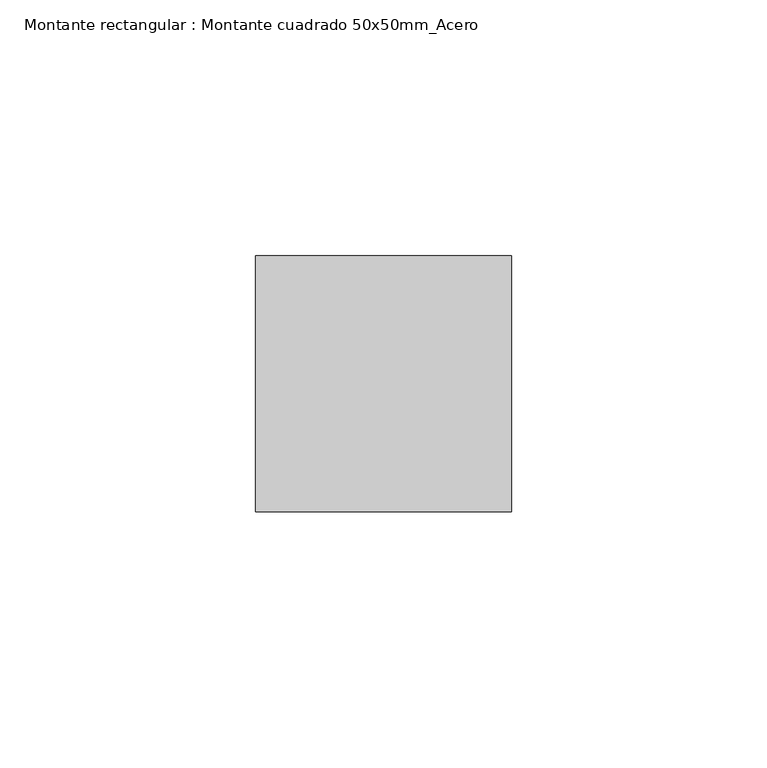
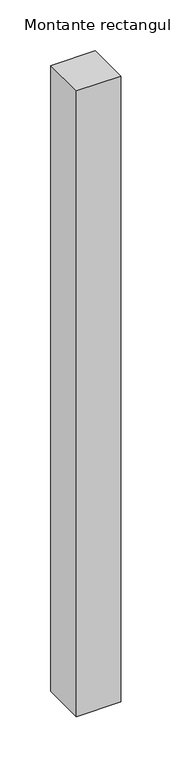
"""IFC4 building model written with IfcOpenShell, lengths in millimetres: member geometry, Montante rectangular : Montante cuadrado 50x50mm_Acero."""

import ifcopenshell
import ifcopenshell.guid

model = None  # the IFC model being written
_history = None  # IfcOwnerHistory: only IFC2X3 demands one
_inside = {}  # id of a spatial element -> (the spatial element, [elements in it])
_under = {}  # id of a project, library or spatial element -> (it, [spatial elements below it])
_declared = {}  # id of a project -> (the project, [libraries it declares])
_typed = {}  # id of a type object -> (the type object, [elements of that type])
_made_of = {}  # id of a material, layer set ... -> (it, [elements and type objects made of it])


def new_model(schema):
    """Start an empty IFC model of exactly this schema.

    Asked for "IFC4X3", IfcOpenShell would pick the latest addendum, in which some entities
    have other attributes; the version numbers below select the first issue.
    IFC2X3 requires an IfcOwnerHistory on every rooted entity: one is made here for all.
    """
    global model, _history
    if schema == "IFC4X3":
        model = ifcopenshell.file(schema_version=(4, 3, 0, 0))
    else:
        model = ifcopenshell.file(schema=schema)
    _inside.clear()
    _under.clear()
    _declared.clear()
    _typed.clear()
    _made_of.clear()
    _history = None
    if model.schema == "IFC2X3":
        org = make("IfcOrganization", Name="unknown")
        user = make(
            "IfcPersonAndOrganization",
            ThePerson=make("IfcPerson", FamilyName="unknown"),
            TheOrganization=org,
        )
        app = make(
            "IfcApplication",
            ApplicationDeveloper=org,
            Version="unknown",
            ApplicationFullName="unknown",
            ApplicationIdentifier="unknown",
        )
        _history = make(
            "IfcOwnerHistory",
            OwningUser=user,
            OwningApplication=app,
            ChangeAction="ADDED",
            CreationDate=0,
        )
    return model


def make(cls, **values):
    """One entity of the class cls with the attributes given. An attribute that is None is left unset."""
    return model.create_entity(
        cls, **{name: value for name, value in values.items() if value is not None}
    )


def rooted(cls, **values):
    """An entity with a GlobalId (a new one), such as an element, a storey or a relation."""
    return make(cls, GlobalId=ifcopenshell.guid.new(), OwnerHistory=_history, **values)


def si_unit(unit_type, name, prefix=None):
    """IfcSIUnit, for example si_unit("LENGTHUNIT", "METRE", prefix="MILLI")."""
    return make("IfcSIUnit", UnitType=unit_type, Prefix=prefix, Name=name)


def assignment(units):
    """IfcUnitAssignment: the units of a project."""
    return None if units is None else make("IfcUnitAssignment", Units=units)


def point(xyz):
    """IfcCartesianPoint."""
    return None if xyz is None else make("IfcCartesianPoint", Coordinates=xyz)


def direction(xyz):
    """IfcDirection."""
    return None if xyz is None else make("IfcDirection", DirectionRatios=xyz)


def frame(location, z_axis=None, x_axis=None):
    """IfcAxis2Placement3D, a coordinate frame: its origin and axes. An axis left out is left unset."""
    return make(
        "IfcAxis2Placement3D",
        Location=point(location),
        Axis=direction(z_axis),
        RefDirection=direction(x_axis),
    )


def origin():
    """The frame at (0, 0, 0) with its axes left unset."""
    return frame((0.0, 0.0, 0.0))


def place(relative_to, where):
    """IfcLocalPlacement: puts the frame where relative to a parent placement (None: the world)."""
    return make(
        "IfcLocalPlacement", PlacementRelTo=relative_to, RelativePlacement=where
    )


def context(
    kind, dimensions, precision=None, world=None, true_north=None, identifier=None
):
    """IfcGeometricRepresentationContext, for example the 3D "Model" context."""
    return make(
        "IfcGeometricRepresentationContext",
        ContextIdentifier=identifier,
        ContextType=kind,
        CoordinateSpaceDimension=dimensions,
        Precision=precision,
        WorldCoordinateSystem=world,
        TrueNorth=true_north,
    )


def project(units=None, contexts=None):
    """IfcProject with its units and contexts."""
    return rooted(
        "IfcProject",
        Name="project",
        RepresentationContexts=contexts,
        UnitsInContext=assignment(units),
    )


def spatial(cls, under=None, at=None, **own):
    """A site, building, storey or space (cls), placed at a placement, below another one or the project."""
    s = rooted(cls, ObjectPlacement=at, **own)
    if under is not None:
        _under.setdefault(under.id(), (under, []))[1].append(s)
    return s


def polyline(points):
    """IfcPolyline through the points."""
    return make("IfcPolyline", Points=[point(p) for p in points])


def outline(outer, holes=None, kind="AREA"):
    """IfcArbitraryClosedProfileDef: a profile drawn as a closed curve; with holes, ...WithVoids."""
    if holes is None:
        return make("IfcArbitraryClosedProfileDef", ProfileType=kind, OuterCurve=outer)
    return make(
        "IfcArbitraryProfileDefWithVoids",
        ProfileType=kind,
        OuterCurve=outer,
        InnerCurves=holes,
    )


def extrude(swept, where, along, depth):
    """IfcExtrudedAreaSolid: the profile swept, set in the frame where, extruded along a direction by depth."""
    return make(
        "IfcExtrudedAreaSolid",
        SweptArea=swept,
        Position=where,
        ExtrudedDirection=direction(along),
        Depth=depth,
    )


def shape(context_of_items, identifier, shape_type, items):
    """IfcShapeRepresentation: the items that make up one representation, for example the "Body"."""
    return make(
        "IfcShapeRepresentation",
        ContextOfItems=context_of_items,
        RepresentationIdentifier=identifier,
        RepresentationType=shape_type,
        Items=items,
    )


def source(mapping_origin, context_of_items, identifier, shape_type, items):
    """IfcRepresentationMap: a shape defined once, which mapped items show again and again."""
    return make(
        "IfcRepresentationMap",
        MappingOrigin=mapping_origin,
        MappedRepresentation=shape(context_of_items, identifier, shape_type, items),
    )


def transform(
    local_origin,
    x_axis=None,
    y_axis=None,
    z_axis=None,
    scale=None,
    scale2=None,
    scale3=None,
    uniform=True,
):
    """IfcCartesianTransformationOperator3D, or its non-uniform kind. x_axis, y_axis, z_axis: its Axis1, 2, 3."""
    if uniform:
        return make(
            "IfcCartesianTransformationOperator3D",
            Axis1=direction(x_axis),
            Axis2=direction(y_axis),
            LocalOrigin=point(local_origin),
            Scale=scale,
            Axis3=direction(z_axis),
        )
    return make(
        "IfcCartesianTransformationOperator3DnonUniform",
        Axis1=direction(x_axis),
        Axis2=direction(y_axis),
        LocalOrigin=point(local_origin),
        Scale=scale,
        Axis3=direction(z_axis),
        Scale2=scale2,
        Scale3=scale3,
    )


def mapped(mapping_source, mapping_target):
    """IfcMappedItem: shows the shape of a source again, moved by a transform."""
    return make(
        "IfcMappedItem", MappingSource=mapping_source, MappingTarget=mapping_target
    )


def made_of(thing, what):
    """Note that an element or type object is made of a material, layer set ...; save() writes the relation."""
    if what is not None:
        _made_of.setdefault(what.id(), (what, []))[1].append(thing)
    return thing


def element(
    cls,
    number,
    at=None,
    inside=None,
    cuts=None,
    type_object=None,
    material=None,
    context=None,
    identifier="Body",
    shape_type=None,
    held_by="IfcProductDefinitionShape",
    body=None,
    shapes=None,
    **own,
):
    """One element of the class cls, such as IfcWall. Its Tag is "e" and its number.

    at: its placement. inside: the storey or other place that contains it. cuts: it is an
    opening in that element (IfcRelVoidsElement). A single representation is given by context,
    identifier, shape_type and body (its items); several are given by shapes. held_by: the class
    of the entity that holds the representations. save() writes the other relations.
    """
    e = rooted(cls, Tag="e%d" % number, ObjectPlacement=at, **own)
    if body is not None:
        shapes = [shape(context, identifier, shape_type, body)]
    if shapes is not None:
        e.Representation = make(held_by, Representations=shapes)
    if inside is not None:
        _inside.setdefault(inside.id(), (inside, []))[1].append(e)
    if cuts is not None:
        rooted(
            "IfcRelVoidsElement", RelatingBuildingElement=cuts, RelatedOpeningElement=e
        )
    if type_object is not None:
        _typed.setdefault(type_object.id(), (type_object, []))[1].append(e)
    return made_of(e, material)


def aggregate(whole, parts):
    """IfcRelAggregates: a whole, such as a stair, and the parts it consists of."""
    return rooted("IfcRelAggregates", RelatingObject=whole, RelatedObjects=parts)


def save(model, path):
    """Write the relations noted so far, then the file.

    IfcRelAggregates (storeys below a building ...), IfcRelContainedInSpatialStructure (elements
    in a storey), IfcRelDefinesByType, IfcRelAssociatesMaterial and IfcRelDeclares: one each for
    every whole, place, type object, material and project.
    """
    for whole, parts in _under.values():
        aggregate(whole, parts)
    for where, things in _inside.values():
        rooted(
            "IfcRelContainedInSpatialStructure",
            RelatedElements=things,
            RelatingStructure=where,
        )
    for kind, things in _typed.values():
        rooted("IfcRelDefinesByType", RelatedObjects=things, RelatingType=kind)
    for what, things in _made_of.values():
        rooted("IfcRelAssociatesMaterial", RelatedObjects=things, RelatingMaterial=what)
    for by, libraries in _declared.values():
        rooted("IfcRelDeclares", RelatingContext=by, RelatedDefinitions=libraries)
    model.write(path)


def montante_rectangular_montante_cuadrado_50x50mm_acero_813f6996(model_context):
    return source(origin(), model_context, "Body", "SweptSolid", [
        extrude(outline(polyline([(0.0, 0.0), (0.0, -50.0), (-50.0, -50.0), (-50.0, 0.0), (0.0, 0.0)])), frame((0.0, 0.0, -749.9999965), z_axis=(0.0, 0.0, 1.0), x_axis=(1.0, 0.0, 0.0)), (0.0, 0.0, 1.0), 749.9999965),
    ])


if __name__ == "__main__":
    model = new_model("IFC4")
    model_context = context("Model", 3, world=origin())
    ifc_project = project(units=[si_unit("LENGTHUNIT", "METRE", prefix="MILLI")], contexts=[model_context])
    site = spatial("IfcSite", under=ifc_project)
    building = spatial("IfcBuilding", under=site)
    placement = place(None, origin())
    montante_rectangular_montante_cuadrado_50x50mm_acero_shape = montante_rectangular_montante_cuadrado_50x50mm_acero_813f6996(model_context)
    element("IfcMember", 1, ObjectType="Montante rectangular : Montante cuadrado 50x50mm_Acero", at=placement, inside=building, context=model_context, shape_type="MappedRepresentation", body=[
        mapped(montante_rectangular_montante_cuadrado_50x50mm_acero_shape, transform((0.0, 0.0, 0.0), x_axis=(1.0, 0.0, 0.0), y_axis=(0.0, 1.0, 0.0), z_axis=(0.0, 0.0, 1.0))),
    ])
    save(model, "model.ifc")
